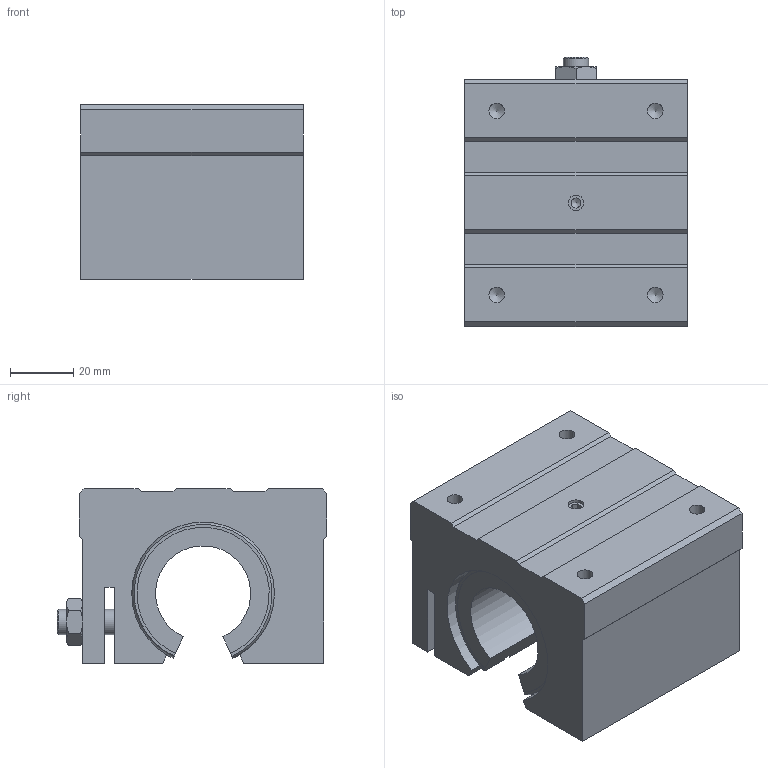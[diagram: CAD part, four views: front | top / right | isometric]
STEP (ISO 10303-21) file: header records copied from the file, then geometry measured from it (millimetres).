
FILE_DESCRIPTION((''),'2;1');
FILE_NAME('D:\製品 (図面)\カタログ用3D\GTA30H.stp','2010-06-07T16:12:32',('Tsuchiya'),(''),'Autodesk Inventor 10','Autodesk Inventor 10','');
FILE_SCHEMA(('AUTOMOTIVE_DESIGN { 1 0 10303 214 1 1 1 1 }'));
Length unit declared in the file: millimetre
Products named in the file (1): GTA30H
Bounding box: 70 x 85 x 55 mm (x, y, z)
Volume: 223517.1 mm3; surface area: 37421.6 mm2
Topology: 1 solids, 1 shells, 101 faces, 274 edges, 174 vertices
Faces by surface type: plane 57, cylinder 17, cone 15, bspline 10, torus 2
Full cylindrical faces by diameter (mm): 8 x2
Entity records: 3114 total; most frequent: CARTESIAN_POINT 778, ORIENTED_EDGE 498, DIRECTION 452, EDGE_CURVE 249, VERTEX_POINT 163, AXIS2_PLACEMENT_3D 151, VECTOR 150, LINE 150
